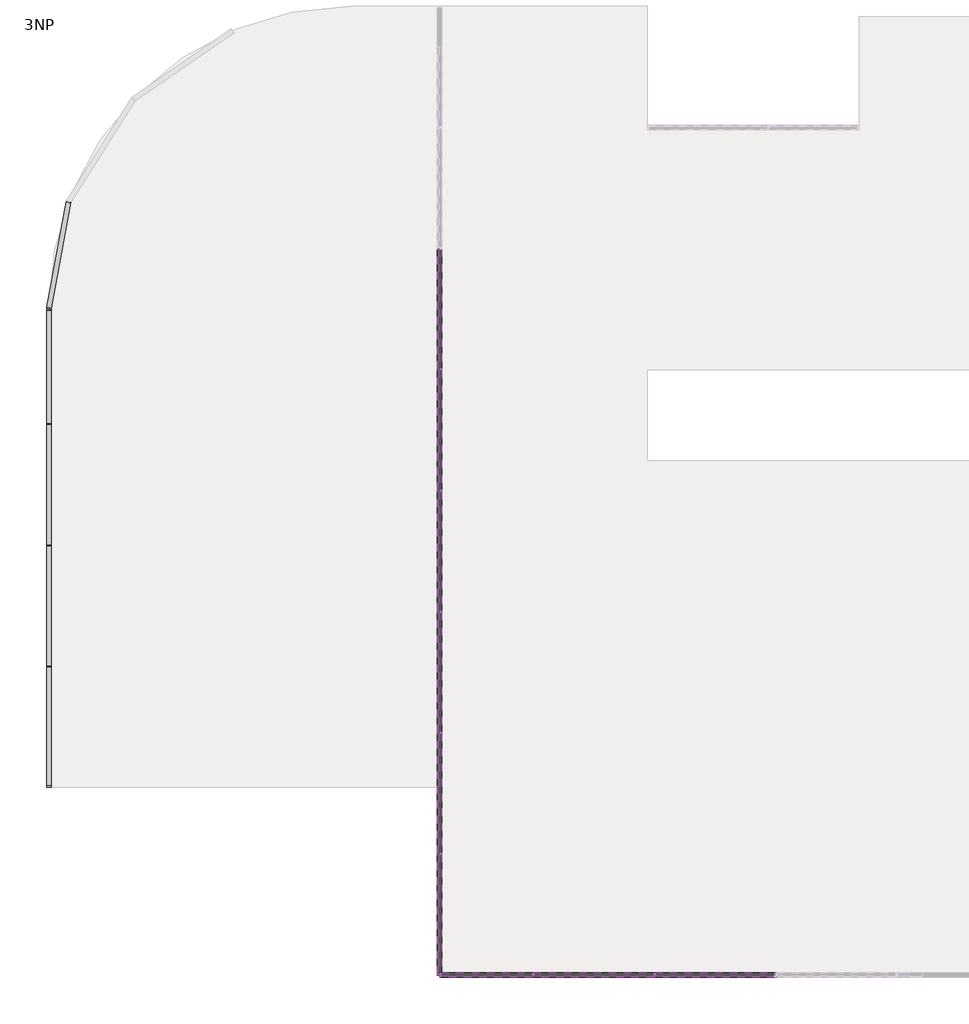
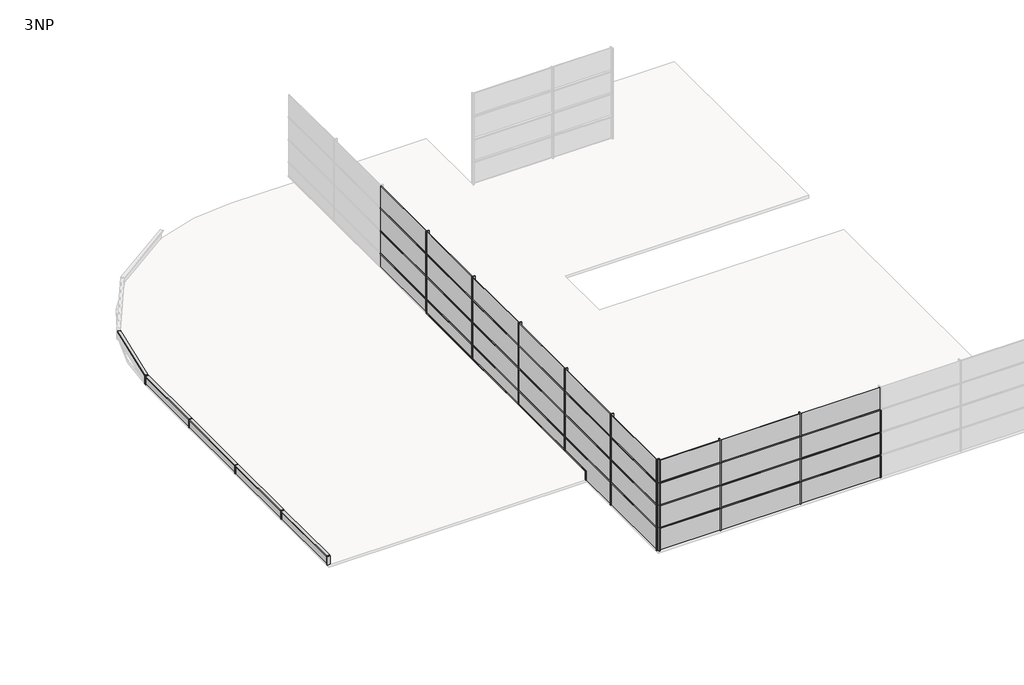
# One storey, part 1 of 3: 82 members, 40 plates.
"""IFC4 building model written with IfcOpenShell, lengths in millimetres."""

from ifc_helpers import new_model, si_unit, origin, place, context, project, spatial, transform, mapped, element, save
from components import rectangular_mullion_50_x_150mm_d99dc9be, rectangular_mullion_50_x_150mm_182bfbd5, rectangular_mullion_50_x_150mm_6588f46c, rectangular_mullion_50_x_150mm_a037c29c, rectangular_mullion_50_x_150mm_c2546fd4, rectangular_mullion_50_x_150mm_402ab136, rectangular_mullion_50_x_150mm_cd873b1a, rectangular_mullion_50_x_150mm_823f78f2, rectangular_mullion_50_x_150mm_af4f190b, rectangular_mullion_50_x_150mm_393abe4d, rectangular_mullion_50_x_150mm_6c212b22, rectangular_mullion_50_x_150mm_f682c31f, rectangular_mullion_50_x_150mm_a5a25251, rectangular_mullion_50_x_150mm_3d11f3b6, system_panel_glazed_8e9402eb, system_panel_glazed_89ac83a7, system_panel_glazed_2dc425e2, system_panel_glazed_457055d6, system_panel_glazed_6f3688e4, system_panel_glazed_d9b165dc, system_panel_glazed_d4f08671, system_panel_glazed_2e57b5d9

model = new_model("IFC4")

# Units and contexts
model_context = context("Model", 3, world=origin())
ifc_project = project(units=[si_unit("LENGTHUNIT", "METRE", prefix="MILLI")], contexts=[model_context])

# Site, building, storey
site = spatial("IfcSite", under=ifc_project)
building = spatial("IfcBuilding", under=site)
storey = spatial("IfcBuildingStorey", under=building, Name="3NP", Elevation=12000.0)

# Members
placement = place(None, origin())
rectangular_mullion_50_x_150mm_shape = rectangular_mullion_50_x_150mm_d99dc9be(model_context)
element("IfcMember", 1, ObjectType="Rectangular Mullion : 50 x 150mm", at=placement, inside=storey, context=model_context, shape_type="MappedRepresentation", body=[
    mapped(rectangular_mullion_50_x_150mm_shape, transform((5503.2660975, -23624.0160434, 13200.0), x_axis=(-1.0, 0.0, 0.0), y_axis=(0.0, -1.0, 0.0), z_axis=(0.0, 0.0, 1.0))),
])
element("IfcMember", 2, ObjectType="Rectangular Mullion : 50 x 150mm", at=placement, inside=storey, context=model_context, shape_type="MappedRepresentation", body=[
    mapped(rectangular_mullion_50_x_150mm_shape, transform((5503.2660975, -23624.0160434, 14400.0), x_axis=(-1.0, 0.0, 0.0), y_axis=(0.0, -1.0, 0.0), z_axis=(0.0, 0.0, 1.0))),
])
element("IfcMember", 3, ObjectType="Rectangular Mullion : 50 x 150mm", at=placement, inside=storey, context=model_context, shape_type="MappedRepresentation", body=[
    mapped(rectangular_mullion_50_x_150mm_shape, transform((5503.2660975, -23624.0160434, 15600.0), x_axis=(-1.0, 0.0, 0.0), y_axis=(0.0, -1.0, 0.0), z_axis=(0.0, 0.0, 1.0))),
])
element("IfcMember", 4, ObjectType="Rectangular Mullion : 50 x 150mm", at=placement, inside=storey, context=model_context, shape_type="MappedRepresentation", body=[
    mapped(rectangular_mullion_50_x_150mm_shape, transform((1503.2660975, -23624.0160434, 13200.0), x_axis=(-1.0, 0.0, 0.0), y_axis=(0.0, -1.0, 0.0), z_axis=(0.0, 0.0, 1.0))),
])
element("IfcMember", 5, ObjectType="Rectangular Mullion : 50 x 150mm", at=placement, inside=storey, context=model_context, shape_type="MappedRepresentation", body=[
    mapped(rectangular_mullion_50_x_150mm_shape, transform((1503.2660975, -23624.0160434, 14400.0), x_axis=(-1.0, 0.0, 0.0), y_axis=(0.0, -1.0, 0.0), z_axis=(0.0, 0.0, 1.0))),
])
element("IfcMember", 6, ObjectType="Rectangular Mullion : 50 x 150mm", at=placement, inside=storey, context=model_context, shape_type="MappedRepresentation", body=[
    mapped(rectangular_mullion_50_x_150mm_shape, transform((1503.2660975, -23624.0160434, 15600.0), x_axis=(-1.0, 0.0, 0.0), y_axis=(0.0, -1.0, 0.0), z_axis=(0.0, 0.0, 1.0))),
])
element("IfcMember", 7, ObjectType="Rectangular Mullion : 50 x 150mm", at=placement, inside=storey, context=model_context, shape_type="MappedRepresentation", body=[
    mapped(rectangular_mullion_50_x_150mm_shape, transform((1503.2660975, -23624.0160434, 16800.0), x_axis=(-1.0, 0.0, 0.0), y_axis=(0.0, -1.0, 0.0), z_axis=(0.0, 0.0, 1.0))),
])
element("IfcMember", 8, ObjectType="Rectangular Mullion : 50 x 150mm", at=placement, inside=storey, context=model_context, shape_type="MappedRepresentation", body=[
    mapped(rectangular_mullion_50_x_150mm_shape, transform((-2496.7339025, -23624.0160434, 13200.0), x_axis=(-1.0, 0.0, 0.0), y_axis=(0.0, -1.0, 0.0), z_axis=(0.0, 0.0, 1.0))),
])
element("IfcMember", 9, ObjectType="Rectangular Mullion : 50 x 150mm", at=placement, inside=storey, context=model_context, shape_type="MappedRepresentation", body=[
    mapped(rectangular_mullion_50_x_150mm_shape, transform((-2496.7339025, -23624.0160434, 14400.0), x_axis=(-1.0, 0.0, 0.0), y_axis=(0.0, -1.0, 0.0), z_axis=(0.0, 0.0, 1.0))),
])
element("IfcMember", 10, ObjectType="Rectangular Mullion : 50 x 150mm", at=placement, inside=storey, context=model_context, shape_type="MappedRepresentation", body=[
    mapped(rectangular_mullion_50_x_150mm_shape, transform((-2496.7339025, -23624.0160434, 15600.0), x_axis=(-1.0, 0.0, 0.0), y_axis=(0.0, -1.0, 0.0), z_axis=(0.0, 0.0, 1.0))),
])
element("IfcMember", 11, ObjectType="Rectangular Mullion : 50 x 150mm", at=placement, inside=storey, context=model_context, shape_type="MappedRepresentation", body=[
    mapped(rectangular_mullion_50_x_150mm_shape, transform((-2496.7339025, -23624.0160434, 16800.0), x_axis=(-1.0, 0.0, 0.0), y_axis=(0.0, -1.0, 0.0), z_axis=(0.0, 0.0, 1.0))),
])
element("IfcMember", 12, ObjectType="Rectangular Mullion : 50 x 150mm", at=placement, inside=storey, context=model_context, shape_type="MappedRepresentation", body=[
    mapped(rectangular_mullion_50_x_150mm_shape, transform((-5587.173406, -19624.0160434, 13200.0), x_axis=(0.0, 1.0, 0.0), y_axis=(-1.0, 0.0, 0.0), z_axis=(0.0, 0.0, 1.0))),
])
element("IfcMember", 13, ObjectType="Rectangular Mullion : 50 x 150mm", at=placement, inside=storey, context=model_context, shape_type="MappedRepresentation", body=[
    mapped(rectangular_mullion_50_x_150mm_shape, transform((-5587.173406, -19624.0160434, 14400.0), x_axis=(0.0, 1.0, 0.0), y_axis=(-1.0, 0.0, 0.0), z_axis=(0.0, 0.0, 1.0))),
])
element("IfcMember", 14, ObjectType="Rectangular Mullion : 50 x 150mm", at=placement, inside=storey, context=model_context, shape_type="MappedRepresentation", body=[
    mapped(rectangular_mullion_50_x_150mm_shape, transform((-5587.173406, -19624.0160434, 15600.0), x_axis=(0.0, 1.0, 0.0), y_axis=(-1.0, 0.0, 0.0), z_axis=(0.0, 0.0, 1.0))),
])
element("IfcMember", 15, ObjectType="Rectangular Mullion : 50 x 150mm", at=placement, inside=storey, context=model_context, shape_type="MappedRepresentation", body=[
    mapped(rectangular_mullion_50_x_150mm_shape, transform((-5587.173406, -19624.0160434, 16800.0), x_axis=(0.0, 1.0, 0.0), y_axis=(-1.0, 0.0, 0.0), z_axis=(0.0, 0.0, 1.0))),
])
element("IfcMember", 16, ObjectType="Rectangular Mullion : 50 x 150mm", at=placement, inside=storey, context=model_context, shape_type="MappedRepresentation", body=[
    mapped(rectangular_mullion_50_x_150mm_shape, transform((-5587.173406, -15624.0160434, 14400.0), x_axis=(0.0, 1.0, 0.0), y_axis=(-1.0, 0.0, 0.0), z_axis=(0.0, 0.0, 1.0))),
])
element("IfcMember", 17, ObjectType="Rectangular Mullion : 50 x 150mm", at=placement, inside=storey, context=model_context, shape_type="MappedRepresentation", body=[
    mapped(rectangular_mullion_50_x_150mm_shape, transform((-5587.173406, -15624.0160434, 15600.0), x_axis=(0.0, 1.0, 0.0), y_axis=(-1.0, 0.0, 0.0), z_axis=(0.0, 0.0, 1.0))),
])
element("IfcMember", 18, ObjectType="Rectangular Mullion : 50 x 150mm", at=placement, inside=storey, context=model_context, shape_type="MappedRepresentation", body=[
    mapped(rectangular_mullion_50_x_150mm_shape, transform((-5587.173406, -15624.0160434, 16800.0), x_axis=(0.0, 1.0, 0.0), y_axis=(-1.0, 0.0, 0.0), z_axis=(0.0, 0.0, 1.0))),
])
element("IfcMember", 19, ObjectType="Rectangular Mullion : 50 x 150mm", at=placement, inside=storey, context=model_context, shape_type="MappedRepresentation", body=[
    mapped(rectangular_mullion_50_x_150mm_shape, transform((-5587.173406, -11624.0160434, 14400.0), x_axis=(0.0, 1.0, 0.0), y_axis=(-1.0, 0.0, 0.0), z_axis=(0.0, 0.0, 1.0))),
])
element("IfcMember", 20, ObjectType="Rectangular Mullion : 50 x 150mm", at=placement, inside=storey, context=model_context, shape_type="MappedRepresentation", body=[
    mapped(rectangular_mullion_50_x_150mm_shape, transform((-5587.173406, -11624.0160434, 15600.0), x_axis=(0.0, 1.0, 0.0), y_axis=(-1.0, 0.0, 0.0), z_axis=(0.0, 0.0, 1.0))),
])
element("IfcMember", 21, ObjectType="Rectangular Mullion : 50 x 150mm", at=placement, inside=storey, context=model_context, shape_type="MappedRepresentation", body=[
    mapped(rectangular_mullion_50_x_150mm_shape, transform((-5587.173406, -11624.0160434, 16800.0), x_axis=(0.0, 1.0, 0.0), y_axis=(-1.0, 0.0, 0.0), z_axis=(0.0, 0.0, 1.0))),
])
element("IfcMember", 22, ObjectType="Rectangular Mullion : 50 x 150mm", at=placement, inside=storey, context=model_context, shape_type="MappedRepresentation", body=[
    mapped(rectangular_mullion_50_x_150mm_shape, transform((-5587.173406, -7624.0160434, 14400.0), x_axis=(0.0, 1.0, 0.0), y_axis=(-1.0, 0.0, 0.0), z_axis=(0.0, 0.0, 1.0))),
])
element("IfcMember", 23, ObjectType="Rectangular Mullion : 50 x 150mm", at=placement, inside=storey, context=model_context, shape_type="MappedRepresentation", body=[
    mapped(rectangular_mullion_50_x_150mm_shape, transform((-5587.173406, -7624.0160434, 15600.0), x_axis=(0.0, 1.0, 0.0), y_axis=(-1.0, 0.0, 0.0), z_axis=(0.0, 0.0, 1.0))),
])
element("IfcMember", 24, ObjectType="Rectangular Mullion : 50 x 150mm", at=placement, inside=storey, context=model_context, shape_type="MappedRepresentation", body=[
    mapped(rectangular_mullion_50_x_150mm_shape, transform((-5587.173406, -7624.0160434, 16800.0), x_axis=(0.0, 1.0, 0.0), y_axis=(-1.0, 0.0, 0.0), z_axis=(0.0, 0.0, 1.0))),
])
element("IfcMember", 25, ObjectType="Rectangular Mullion : 50 x 150mm", at=placement, inside=storey, context=model_context, shape_type="MappedRepresentation", body=[
    mapped(rectangular_mullion_50_x_150mm_shape, transform((-5587.173406, -3624.0160434, 14400.0), x_axis=(0.0, 1.0, 0.0), y_axis=(-1.0, 0.0, 0.0), z_axis=(0.0, 0.0, 1.0))),
])
element("IfcMember", 26, ObjectType="Rectangular Mullion : 50 x 150mm", at=placement, inside=storey, context=model_context, shape_type="MappedRepresentation", body=[
    mapped(rectangular_mullion_50_x_150mm_shape, transform((-5587.173406, -3624.0160434, 15600.0), x_axis=(0.0, 1.0, 0.0), y_axis=(-1.0, 0.0, 0.0), z_axis=(0.0, 0.0, 1.0))),
])
element("IfcMember", 27, ObjectType="Rectangular Mullion : 50 x 150mm", at=placement, inside=storey, context=model_context, shape_type="MappedRepresentation", body=[
    mapped(rectangular_mullion_50_x_150mm_shape, transform((-5587.173406, -3624.0160434, 16800.0), x_axis=(0.0, 1.0, 0.0), y_axis=(-1.0, 0.0, 0.0), z_axis=(0.0, 0.0, 1.0))),
])
rectangular_mullion_50_x_150mm_2_shape = rectangular_mullion_50_x_150mm_182bfbd5(model_context)
element("IfcMember", 28, ObjectType="Rectangular Mullion : 50 x 150mm", at=placement, inside=storey, context=model_context, shape_type="MappedRepresentation", body=[
    mapped(rectangular_mullion_50_x_150mm_2_shape, transform((-5587.173406, -11649.0160434, 12448.4924443), x_axis=(0.0, 0.0, -1.0), y_axis=(-1.0, 0.0, 0.0), z_axis=(0.0, 1.0, 0.0))),
])
element("IfcMember", 29, ObjectType="Rectangular Mullion : 50 x 150mm", at=placement, inside=storey, context=model_context, shape_type="MappedRepresentation", body=[
    mapped(rectangular_mullion_50_x_150mm_2_shape, transform((-5587.173406, -7649.0160434, 12448.4924443), x_axis=(0.0, 0.0, -1.0), y_axis=(-1.0, 0.0, 0.0), z_axis=(0.0, 1.0, 0.0))),
])
element("IfcMember", 30, ObjectType="Rectangular Mullion : 50 x 150mm", at=placement, inside=storey, context=model_context, shape_type="MappedRepresentation", body=[
    mapped(rectangular_mullion_50_x_150mm_2_shape, transform((-5587.173406, -3649.0160434, 12448.4924443), x_axis=(0.0, 0.0, -1.0), y_axis=(-1.0, 0.0, 0.0), z_axis=(0.0, 1.0, 0.0))),
])
rectangular_mullion_50_x_150mm_3_shape = rectangular_mullion_50_x_150mm_6588f46c(model_context)
element("IfcMember", 31, ObjectType="Rectangular Mullion : 50 x 150mm", at=placement, inside=storey, context=model_context, shape_type="MappedRepresentation", body=[
    mapped(rectangular_mullion_50_x_150mm_3_shape, transform((-5587.173406, -23624.0160434, 13200.0), x_axis=(-1.0, 0.0, 0.0), y_axis=(0.0, -1.0, 0.0), z_axis=(0.0, 0.0, 1.0))),
])
element("IfcMember", 32, ObjectType="Rectangular Mullion : 50 x 150mm", at=placement, inside=storey, context=model_context, shape_type="MappedRepresentation", body=[
    mapped(rectangular_mullion_50_x_150mm_3_shape, transform((-5587.173406, -23624.0160434, 14400.0), x_axis=(-1.0, 0.0, 0.0), y_axis=(0.0, -1.0, 0.0), z_axis=(0.0, 0.0, 1.0))),
])
element("IfcMember", 33, ObjectType="Rectangular Mullion : 50 x 150mm", at=placement, inside=storey, context=model_context, shape_type="MappedRepresentation", body=[
    mapped(rectangular_mullion_50_x_150mm_3_shape, transform((-5587.173406, -23624.0160434, 15600.0), x_axis=(-1.0, 0.0, 0.0), y_axis=(0.0, -1.0, 0.0), z_axis=(0.0, 0.0, 1.0))),
])
element("IfcMember", 34, ObjectType="Rectangular Mullion : 50 x 150mm", at=placement, inside=storey, context=model_context, shape_type="MappedRepresentation", body=[
    mapped(rectangular_mullion_50_x_150mm_3_shape, transform((-5587.173406, -23624.0160434, 16800.0), x_axis=(-1.0, 0.0, 0.0), y_axis=(0.0, -1.0, 0.0), z_axis=(0.0, 0.0, 1.0))),
])
element("IfcMember", 35, ObjectType="Rectangular Mullion : 50 x 150mm", at=placement, inside=storey, context=model_context, shape_type="MappedRepresentation", body=[
    mapped(rectangular_mullion_50_x_150mm_2_shape, transform((-18496.7339025, -9398.5291324, 12448.4924443), x_axis=(0.0, 0.0, 1.0), y_axis=(-1.0, 0.0, 0.0), z_axis=(0.0, -1.0, 0.0))),
])
element("IfcMember", 36, ObjectType="Rectangular Mullion : 50 x 150mm", at=placement, inside=storey, context=model_context, shape_type="MappedRepresentation", body=[
    mapped(rectangular_mullion_50_x_150mm_2_shape, transform((-18496.7339025, -13398.5291324, 12448.4924443), x_axis=(0.0, 0.0, 1.0), y_axis=(-1.0, 0.0, 0.0), z_axis=(0.0, -1.0, 0.0))),
])
rectangular_mullion_50_x_150mm_4_shape = rectangular_mullion_50_x_150mm_a037c29c(model_context)
element("IfcMember", 37, ObjectType="Rectangular Mullion : 50 x 150mm", at=placement, inside=storey, context=model_context, shape_type="MappedRepresentation", body=[
    mapped(rectangular_mullion_50_x_150mm_4_shape, transform((5478.2660975, -23624.0160434, 13200.0), x_axis=(0.0, 0.0, 1.0), y_axis=(0.0, -1.0, 0.0), z_axis=(1.0, 0.0, 0.0))),
])
element("IfcMember", 38, ObjectType="Rectangular Mullion : 50 x 150mm", at=placement, inside=storey, context=model_context, shape_type="MappedRepresentation", body=[
    mapped(rectangular_mullion_50_x_150mm_4_shape, transform((1478.2660975, -23624.0160434, 13200.0), x_axis=(0.0, 0.0, 1.0), y_axis=(0.0, -1.0, 0.0), z_axis=(1.0, 0.0, 0.0))),
])
element("IfcMember", 39, ObjectType="Rectangular Mullion : 50 x 150mm", at=placement, inside=storey, context=model_context, shape_type="MappedRepresentation", body=[
    mapped(rectangular_mullion_50_x_150mm_4_shape, transform((5478.2660975, -23624.0160434, 14400.0), x_axis=(0.0, 0.0, 1.0), y_axis=(0.0, -1.0, 0.0), z_axis=(1.0, 0.0, 0.0))),
])
element("IfcMember", 40, ObjectType="Rectangular Mullion : 50 x 150mm", at=placement, inside=storey, context=model_context, shape_type="MappedRepresentation", body=[
    mapped(rectangular_mullion_50_x_150mm_4_shape, transform((1478.2660975, -23624.0160434, 14400.0), x_axis=(0.0, 0.0, 1.0), y_axis=(0.0, -1.0, 0.0), z_axis=(1.0, 0.0, 0.0))),
])
element("IfcMember", 41, ObjectType="Rectangular Mullion : 50 x 150mm", at=placement, inside=storey, context=model_context, shape_type="MappedRepresentation", body=[
    mapped(rectangular_mullion_50_x_150mm_4_shape, transform((5478.2660975, -23624.0160434, 15600.0), x_axis=(0.0, 0.0, 1.0), y_axis=(0.0, -1.0, 0.0), z_axis=(1.0, 0.0, 0.0))),
])
element("IfcMember", 42, ObjectType="Rectangular Mullion : 50 x 150mm", at=placement, inside=storey, context=model_context, shape_type="MappedRepresentation", body=[
    mapped(rectangular_mullion_50_x_150mm_4_shape, transform((1478.2660975, -23624.0160434, 15600.0), x_axis=(0.0, 0.0, 1.0), y_axis=(0.0, -1.0, 0.0), z_axis=(1.0, 0.0, 0.0))),
])
element("IfcMember", 43, ObjectType="Rectangular Mullion : 50 x 150mm", at=placement, inside=storey, context=model_context, shape_type="MappedRepresentation", body=[
    mapped(rectangular_mullion_50_x_150mm_4_shape, transform((-5587.173406, -7599.0160434, 15600.0), x_axis=(0.0, 0.0, 1.0), y_axis=(-1.0, 0.0, 0.0), z_axis=(0.0, -1.0, 0.0))),
])
element("IfcMember", 44, ObjectType="Rectangular Mullion : 50 x 150mm", at=placement, inside=storey, context=model_context, shape_type="MappedRepresentation", body=[
    mapped(rectangular_mullion_50_x_150mm_4_shape, transform((-5587.173406, -3599.0160434, 15600.0), x_axis=(0.0, 0.0, 1.0), y_axis=(-1.0, 0.0, 0.0), z_axis=(0.0, -1.0, 0.0))),
])
element("IfcMember", 45, ObjectType="Rectangular Mullion : 50 x 150mm", at=placement, inside=storey, context=model_context, shape_type="MappedRepresentation", body=[
    mapped(rectangular_mullion_50_x_150mm_4_shape, transform((-5587.173406, -15599.0160434, 14400.0), x_axis=(0.0, 0.0, 1.0), y_axis=(-1.0, 0.0, 0.0), z_axis=(0.0, -1.0, 0.0))),
])
element("IfcMember", 46, ObjectType="Rectangular Mullion : 50 x 150mm", at=placement, inside=storey, context=model_context, shape_type="MappedRepresentation", body=[
    mapped(rectangular_mullion_50_x_150mm_4_shape, transform((-5587.173406, -11599.0160434, 14400.0), x_axis=(0.0, 0.0, 1.0), y_axis=(-1.0, 0.0, 0.0), z_axis=(0.0, -1.0, 0.0))),
])
element("IfcMember", 47, ObjectType="Rectangular Mullion : 50 x 150mm", at=placement, inside=storey, context=model_context, shape_type="MappedRepresentation", body=[
    mapped(rectangular_mullion_50_x_150mm_4_shape, transform((-5587.173406, -7599.0160434, 14400.0), x_axis=(0.0, 0.0, 1.0), y_axis=(-1.0, 0.0, 0.0), z_axis=(0.0, -1.0, 0.0))),
])
element("IfcMember", 48, ObjectType="Rectangular Mullion : 50 x 150mm", at=placement, inside=storey, context=model_context, shape_type="MappedRepresentation", body=[
    mapped(rectangular_mullion_50_x_150mm_4_shape, transform((-5587.173406, -3599.0160434, 14400.0), x_axis=(0.0, 0.0, 1.0), y_axis=(-1.0, 0.0, 0.0), z_axis=(0.0, -1.0, 0.0))),
])
element("IfcMember", 49, ObjectType="Rectangular Mullion : 50 x 150mm", at=placement, inside=storey, context=model_context, shape_type="MappedRepresentation", body=[
    mapped(rectangular_mullion_50_x_150mm_4_shape, transform((-5587.173406, -19599.0160434, 15600.0), x_axis=(0.0, 0.0, 1.0), y_axis=(-1.0, 0.0, 0.0), z_axis=(0.0, -1.0, 0.0))),
])
element("IfcMember", 50, ObjectType="Rectangular Mullion : 50 x 150mm", at=placement, inside=storey, context=model_context, shape_type="MappedRepresentation", body=[
    mapped(rectangular_mullion_50_x_150mm_4_shape, transform((-5587.173406, -15599.0160434, 15600.0), x_axis=(0.0, 0.0, 1.0), y_axis=(-1.0, 0.0, 0.0), z_axis=(0.0, -1.0, 0.0))),
])
element("IfcMember", 51, ObjectType="Rectangular Mullion : 50 x 150mm", at=placement, inside=storey, context=model_context, shape_type="MappedRepresentation", body=[
    mapped(rectangular_mullion_50_x_150mm_4_shape, transform((-5587.173406, -11599.0160434, 15600.0), x_axis=(0.0, 0.0, 1.0), y_axis=(-1.0, 0.0, 0.0), z_axis=(0.0, -1.0, 0.0))),
])
element("IfcMember", 52, ObjectType="Rectangular Mullion : 50 x 150mm", at=placement, inside=storey, context=model_context, shape_type="MappedRepresentation", body=[
    mapped(rectangular_mullion_50_x_150mm_4_shape, transform((-5587.173406, -19599.0160434, 13200.0), x_axis=(0.0, 0.0, 1.0), y_axis=(-1.0, 0.0, 0.0), z_axis=(0.0, -1.0, 0.0))),
])
element("IfcMember", 53, ObjectType="Rectangular Mullion : 50 x 150mm", at=placement, inside=storey, context=model_context, shape_type="MappedRepresentation", body=[
    mapped(rectangular_mullion_50_x_150mm_4_shape, transform((-5587.173406, -15599.0160434, 13200.0), x_axis=(0.0, 0.0, 1.0), y_axis=(-1.0, 0.0, 0.0), z_axis=(0.0, -1.0, 0.0))),
])
element("IfcMember", 54, ObjectType="Rectangular Mullion : 50 x 150mm", at=placement, inside=storey, context=model_context, shape_type="MappedRepresentation", body=[
    mapped(rectangular_mullion_50_x_150mm_4_shape, transform((-5587.173406, -11599.0160434, 13200.0), x_axis=(0.0, 0.0, 1.0), y_axis=(-1.0, 0.0, 0.0), z_axis=(0.0, -1.0, 0.0))),
])
element("IfcMember", 55, ObjectType="Rectangular Mullion : 50 x 150mm", at=placement, inside=storey, context=model_context, shape_type="MappedRepresentation", body=[
    mapped(rectangular_mullion_50_x_150mm_4_shape, transform((-5587.173406, -7599.0160434, 13200.0), x_axis=(0.0, 0.0, 1.0), y_axis=(-1.0, 0.0, 0.0), z_axis=(0.0, -1.0, 0.0))),
])
element("IfcMember", 56, ObjectType="Rectangular Mullion : 50 x 150mm", at=placement, inside=storey, context=model_context, shape_type="MappedRepresentation", body=[
    mapped(rectangular_mullion_50_x_150mm_4_shape, transform((-5587.173406, -3599.0160434, 13200.0), x_axis=(0.0, 0.0, 1.0), y_axis=(-1.0, 0.0, 0.0), z_axis=(0.0, -1.0, 0.0))),
])
element("IfcMember", 57, ObjectType="Rectangular Mullion : 50 x 150mm", at=placement, inside=storey, context=model_context, shape_type="MappedRepresentation", body=[
    mapped(rectangular_mullion_50_x_150mm_4_shape, transform((-5587.173406, -19599.0160434, 14400.0), x_axis=(0.0, 0.0, 1.0), y_axis=(-1.0, 0.0, 0.0), z_axis=(0.0, -1.0, 0.0))),
])
rectangular_mullion_50_x_150mm_5_shape = rectangular_mullion_50_x_150mm_c2546fd4(model_context)
element("IfcMember", 58, ObjectType="Rectangular Mullion : 50 x 150mm", at=placement, inside=storey, context=model_context, shape_type="MappedRepresentation", body=[
    mapped(rectangular_mullion_50_x_150mm_5_shape, transform((-5587.173406, -23574.0160434, 15600.0), x_axis=(0.0, 0.0, 1.0), y_axis=(-1.0, 0.0, 0.0), z_axis=(0.0, -1.0, 0.0))),
])
element("IfcMember", 59, ObjectType="Rectangular Mullion : 50 x 150mm", at=placement, inside=storey, context=model_context, shape_type="MappedRepresentation", body=[
    mapped(rectangular_mullion_50_x_150mm_5_shape, transform((-5587.173406, -23574.0160434, 13200.0), x_axis=(0.0, 0.0, 1.0), y_axis=(-1.0, 0.0, 0.0), z_axis=(0.0, -1.0, 0.0))),
])
element("IfcMember", 60, ObjectType="Rectangular Mullion : 50 x 150mm", at=placement, inside=storey, context=model_context, shape_type="MappedRepresentation", body=[
    mapped(rectangular_mullion_50_x_150mm_5_shape, transform((-5587.173406, -23574.0160434, 14400.0), x_axis=(0.0, 0.0, 1.0), y_axis=(-1.0, 0.0, 0.0), z_axis=(0.0, -1.0, 0.0))),
])
rectangular_mullion_50_x_150mm_6_shape = rectangular_mullion_50_x_150mm_402ab136(model_context)
element("IfcMember", 61, ObjectType="Rectangular Mullion : 50 x 150mm", at=placement, inside=storey, context=model_context, shape_type="MappedRepresentation", body=[
    mapped(rectangular_mullion_50_x_150mm_6_shape, transform((-18496.7339025, -17373.5291324, 12448.4924443), x_axis=(0.0, 0.0, 1.0), y_axis=(-1.0, 0.0, 0.0), z_axis=(0.0, -1.0, 0.0))),
])
element("IfcMember", 62, ObjectType="Rectangular Mullion : 50 x 150mm", at=placement, inside=storey, context=model_context, shape_type="MappedRepresentation", body=[
    mapped(rectangular_mullion_50_x_150mm_3_shape, transform((-5587.173406, -23624.0160434, 12000.0), x_axis=(0.0, -1.0, 0.0), y_axis=(-1.0, 0.0, 0.0), z_axis=(0.0, 0.0, -1.0))),
])
element("IfcMember", 63, ObjectType="Rectangular Mullion : 50 x 150mm", at=placement, inside=storey, context=model_context, shape_type="MappedRepresentation", body=[
    mapped(rectangular_mullion_50_x_150mm_3_shape, transform((-5587.173406, -23624.0160434, 13200.0), x_axis=(0.0, -1.0, 0.0), y_axis=(-1.0, 0.0, 0.0), z_axis=(0.0, 0.0, -1.0))),
])
element("IfcMember", 64, ObjectType="Rectangular Mullion : 50 x 150mm", at=placement, inside=storey, context=model_context, shape_type="MappedRepresentation", body=[
    mapped(rectangular_mullion_50_x_150mm_3_shape, transform((-5587.173406, -23624.0160434, 14400.0), x_axis=(0.0, -1.0, 0.0), y_axis=(-1.0, 0.0, 0.0), z_axis=(0.0, 0.0, -1.0))),
])
element("IfcMember", 65, ObjectType="Rectangular Mullion : 50 x 150mm", at=placement, inside=storey, context=model_context, shape_type="MappedRepresentation", body=[
    mapped(rectangular_mullion_50_x_150mm_3_shape, transform((-5587.173406, -23624.0160434, 15600.0), x_axis=(0.0, -1.0, 0.0), y_axis=(-1.0, 0.0, 0.0), z_axis=(0.0, 0.0, -1.0))),
])
rectangular_mullion_50_x_150mm_7_shape = rectangular_mullion_50_x_150mm_cd873b1a(model_context)
element("IfcMember", 66, ObjectType="Rectangular Mullion : 50 x 150mm", at=placement, inside=storey, context=model_context, shape_type="MappedRepresentation", body=[
    mapped(rectangular_mullion_50_x_150mm_7_shape, transform((-2521.7339025, -23624.0160434, 13200.0), x_axis=(0.0, 0.0, 1.0), y_axis=(0.0, -1.0, 0.0), z_axis=(1.0, 0.0, 0.0))),
])
element("IfcMember", 67, ObjectType="Rectangular Mullion : 50 x 150mm", at=placement, inside=storey, context=model_context, shape_type="MappedRepresentation", body=[
    mapped(rectangular_mullion_50_x_150mm_7_shape, transform((-2521.7339025, -23624.0160434, 14400.0), x_axis=(0.0, 0.0, 1.0), y_axis=(0.0, -1.0, 0.0), z_axis=(1.0, 0.0, 0.0))),
])
element("IfcMember", 68, ObjectType="Rectangular Mullion : 50 x 150mm", at=placement, inside=storey, context=model_context, shape_type="MappedRepresentation", body=[
    mapped(rectangular_mullion_50_x_150mm_7_shape, transform((-2521.7339025, -23624.0160434, 15600.0), x_axis=(0.0, 0.0, 1.0), y_axis=(0.0, -1.0, 0.0), z_axis=(1.0, 0.0, 0.0))),
])
rectangular_mullion_50_x_150mm_8_shape = rectangular_mullion_50_x_150mm_823f78f2(model_context)
element("IfcMember", 69, ObjectType="Rectangular Mullion : 50 x 150mm", at=placement, inside=storey, context=model_context, shape_type="MappedRepresentation", body=[
    mapped(rectangular_mullion_50_x_150mm_8_shape, transform((-5587.173406, -15624.0160434, 13200.0), x_axis=(0.0, 1.0, 0.0), y_axis=(-1.0, 0.0, 0.0), z_axis=(0.0, 0.0, 1.0))),
])
element("IfcMember", 70, ObjectType="Rectangular Mullion : 50 x 150mm", at=placement, inside=storey, context=model_context, shape_type="MappedRepresentation", body=[
    mapped(rectangular_mullion_50_x_150mm_8_shape, transform((-5587.173406, -11624.0160434, 13200.0), x_axis=(0.0, 1.0, 0.0), y_axis=(-1.0, 0.0, 0.0), z_axis=(0.0, 0.0, 1.0))),
])
element("IfcMember", 71, ObjectType="Rectangular Mullion : 50 x 150mm", at=placement, inside=storey, context=model_context, shape_type="MappedRepresentation", body=[
    mapped(rectangular_mullion_50_x_150mm_8_shape, transform((-5587.173406, -7624.0160434, 13200.0), x_axis=(0.0, 1.0, 0.0), y_axis=(-1.0, 0.0, 0.0), z_axis=(0.0, 0.0, 1.0))),
])
element("IfcMember", 72, ObjectType="Rectangular Mullion : 50 x 150mm", at=placement, inside=storey, context=model_context, shape_type="MappedRepresentation", body=[
    mapped(rectangular_mullion_50_x_150mm_8_shape, transform((-5587.173406, -3624.0160434, 13200.0), x_axis=(0.0, 1.0, 0.0), y_axis=(-1.0, 0.0, 0.0), z_axis=(0.0, 0.0, 1.0))),
])
rectangular_mullion_50_x_150mm_9_shape = rectangular_mullion_50_x_150mm_af4f190b(model_context)
element("IfcMember", 73, ObjectType="Rectangular Mullion : 50 x 150mm", at=placement, inside=storey, context=model_context, shape_type="MappedRepresentation", body=[
    mapped(rectangular_mullion_50_x_150mm_9_shape, transform((-5587.173406, -17423.5291324, 12498.4924443), x_axis=(0.0, 1.0, 0.0), y_axis=(-1.0, 0.0, 0.0), z_axis=(0.0, 0.0, 1.0))),
])
rectangular_mullion_50_x_150mm_10_shape = rectangular_mullion_50_x_150mm_393abe4d(model_context)
element("IfcMember", 74, ObjectType="Rectangular Mullion : 50 x 150mm", at=placement, inside=storey, context=model_context, shape_type="MappedRepresentation", body=[
    mapped(rectangular_mullion_50_x_150mm_10_shape, transform((-5587.173406, -15649.0160434, 12448.4924443), x_axis=(0.0, 0.0, -1.0), y_axis=(-1.0, 0.0, 0.0), z_axis=(0.0, 1.0, 0.0))),
])
rectangular_mullion_50_x_150mm_11_shape = rectangular_mullion_50_x_150mm_6c212b22(model_context)
element("IfcMember", 75, ObjectType="Rectangular Mullion : 50 x 150mm", at=placement, inside=storey, context=model_context, shape_type="MappedRepresentation", body=[
    mapped(rectangular_mullion_50_x_150mm_11_shape, transform((-18496.7339025, -1624.0160434, 12448.4924443), x_axis=(0.0, 1.0, 0.0), y_axis=(-1.0, 0.0, 0.0), z_axis=(0.0, 0.0, 1.0))),
])
element("IfcMember", 76, ObjectType="Rectangular Mullion : 50 x 150mm", at=placement, inside=storey, context=model_context, shape_type="MappedRepresentation", body=[
    mapped(rectangular_mullion_50_x_150mm_11_shape, transform((-18496.7339025, -1624.0160434, 12000.0), x_axis=(-0.18033241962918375, -0.9836057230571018, 0.0), y_axis=(-0.9836057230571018, 0.18033241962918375, 0.0), z_axis=(0.0, 0.0, -1.0))),
])
element("IfcMember", 77, ObjectType="Rectangular Mullion : 50 x 150mm", at=placement, inside=storey, context=model_context, shape_type="MappedRepresentation", body=[
    mapped(rectangular_mullion_50_x_150mm_11_shape, transform((-18496.7339025, -17423.5291324, 12000.0), x_axis=(0.0, -1.0, 0.0), y_axis=(-1.0, 0.0, 0.0), z_axis=(0.0, 0.0, -1.0))),
])
rectangular_mullion_50_x_150mm_12_shape = rectangular_mullion_50_x_150mm_f682c31f(model_context)
element("IfcMember", 78, ObjectType="Rectangular Mullion : 50 x 150mm", at=placement, inside=storey, context=model_context, shape_type="MappedRepresentation", body=[
    mapped(rectangular_mullion_50_x_150mm_12_shape, transform((-18487.7172815, -1574.8357573, 12448.4924443), x_axis=(0.0, 0.0, 1.0), y_axis=(-0.9836057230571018, 0.18033241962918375, 0.0), z_axis=(-0.18033241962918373, -0.9836057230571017, 0.0))),
])
rectangular_mullion_50_x_150mm_13_shape = rectangular_mullion_50_x_150mm_a5a25251(model_context)
element("IfcMember", 79, ObjectType="Rectangular Mullion : 50 x 150mm", at=placement, inside=storey, context=model_context, shape_type="MappedRepresentation", body=[
    mapped(rectangular_mullion_50_x_150mm_13_shape, transform((-18496.7339025, -5398.5291324, 12448.4924443), x_axis=(0.0, 0.0, 1.0), y_axis=(-1.0, 0.0, 0.0), z_axis=(0.0, -1.0, 0.0))),
])
rectangular_mullion_50_x_150mm_14_shape = rectangular_mullion_50_x_150mm_3d11f3b6(model_context)
element("IfcMember", 80, ObjectType="Rectangular Mullion : 50 x 150mm", at=placement, inside=storey, context=model_context, shape_type="MappedRepresentation", body=[
    mapped(rectangular_mullion_50_x_150mm_14_shape, transform((-18496.7339025, -13423.5291324, 12448.4924443), x_axis=(0.0, 1.0, 0.0), y_axis=(-1.0, 0.0, 0.0), z_axis=(0.0, 0.0, 1.0))),
])
element("IfcMember", 81, ObjectType="Rectangular Mullion : 50 x 150mm", at=placement, inside=storey, context=model_context, shape_type="MappedRepresentation", body=[
    mapped(rectangular_mullion_50_x_150mm_14_shape, transform((-18496.7339025, -9423.5291324, 12448.4924443), x_axis=(0.0, 1.0, 0.0), y_axis=(-1.0, 0.0, 0.0), z_axis=(0.0, 0.0, 1.0))),
])
element("IfcMember", 82, ObjectType="Rectangular Mullion : 50 x 150mm", at=placement, inside=storey, context=model_context, shape_type="MappedRepresentation", body=[
    mapped(rectangular_mullion_50_x_150mm_14_shape, transform((-18496.7339025, -5423.5291324, 12448.4924443), x_axis=(0.0, 1.0, 0.0), y_axis=(-1.0, 0.0, 0.0), z_axis=(0.0, 0.0, 1.0))),
])

# Plates
system_panel_glazed_shape = system_panel_glazed_8e9402eb(model_context)
element("IfcPlate", 83, ObjectType="System Panel : Glazed", at=placement, inside=storey, context=model_context, shape_type="MappedRepresentation", body=[
    mapped(system_panel_glazed_shape, transform((-5587.173406, -21611.5160434, 12025.0), x_axis=(0.0, 1.0, 0.0), y_axis=(-1.0, 0.0, 0.0), z_axis=(0.0, 0.0, 1.0))),
])
element("IfcPlate", 84, ObjectType="System Panel : Glazed", at=placement, inside=storey, context=model_context, shape_type="MappedRepresentation", body=[
    mapped(system_panel_glazed_shape, transform((-5587.173406, -21611.5160434, 13225.0), x_axis=(0.0, 1.0, 0.0), y_axis=(-1.0, 0.0, 0.0), z_axis=(0.0, 0.0, 1.0))),
])
element("IfcPlate", 85, ObjectType="System Panel : Glazed", at=placement, inside=storey, context=model_context, shape_type="MappedRepresentation", body=[
    mapped(system_panel_glazed_shape, transform((-5587.173406, -21611.5160434, 14425.0), x_axis=(0.0, 1.0, 0.0), y_axis=(-1.0, 0.0, 0.0), z_axis=(0.0, 0.0, 1.0))),
])
element("IfcPlate", 86, ObjectType="System Panel : Glazed", at=placement, inside=storey, context=model_context, shape_type="MappedRepresentation", body=[
    mapped(system_panel_glazed_shape, transform((-5587.173406, -21611.5160434, 15625.0), x_axis=(0.0, 1.0, 0.0), y_axis=(-1.0, 0.0, 0.0), z_axis=(0.0, 0.0, 1.0))),
])
system_panel_glazed_2_shape = system_panel_glazed_89ac83a7(model_context)
element("IfcPlate", 87, ObjectType="System Panel : Glazed", at=placement, inside=storey, context=model_context, shape_type="MappedRepresentation", body=[
    mapped(system_panel_glazed_2_shape, transform((-5587.173406, -17624.0160434, 13225.0), x_axis=(0.0, 1.0, 0.0), y_axis=(-1.0, 0.0, 0.0), z_axis=(0.0, 0.0, 1.0))),
])
element("IfcPlate", 88, ObjectType="System Panel : Glazed", at=placement, inside=storey, context=model_context, shape_type="MappedRepresentation", body=[
    mapped(system_panel_glazed_2_shape, transform((-5587.173406, -13624.0160434, 13225.0), x_axis=(0.0, 1.0, 0.0), y_axis=(-1.0, 0.0, 0.0), z_axis=(0.0, 0.0, 1.0))),
])
element("IfcPlate", 89, ObjectType="System Panel : Glazed", at=placement, inside=storey, context=model_context, shape_type="MappedRepresentation", body=[
    mapped(system_panel_glazed_2_shape, transform((-5587.173406, -9624.0160434, 13225.0), x_axis=(0.0, 1.0, 0.0), y_axis=(-1.0, 0.0, 0.0), z_axis=(0.0, 0.0, 1.0))),
])
element("IfcPlate", 90, ObjectType="System Panel : Glazed", at=placement, inside=storey, context=model_context, shape_type="MappedRepresentation", body=[
    mapped(system_panel_glazed_2_shape, transform((-5587.173406, -5624.0160434, 13225.0), x_axis=(0.0, 1.0, 0.0), y_axis=(-1.0, 0.0, 0.0), z_axis=(0.0, 0.0, 1.0))),
])
element("IfcPlate", 91, ObjectType="System Panel : Glazed", at=placement, inside=storey, context=model_context, shape_type="MappedRepresentation", body=[
    mapped(system_panel_glazed_2_shape, transform((-5587.173406, -1624.0160434, 13225.0), x_axis=(0.0, 1.0, 0.0), y_axis=(-1.0, 0.0, 0.0), z_axis=(0.0, 0.0, 1.0))),
])
element("IfcPlate", 92, ObjectType="System Panel : Glazed", at=placement, inside=storey, context=model_context, shape_type="MappedRepresentation", body=[
    mapped(system_panel_glazed_2_shape, transform((-5587.173406, -17624.0160434, 14425.0), x_axis=(0.0, 1.0, 0.0), y_axis=(-1.0, 0.0, 0.0), z_axis=(0.0, 0.0, 1.0))),
])
element("IfcPlate", 93, ObjectType="System Panel : Glazed", at=placement, inside=storey, context=model_context, shape_type="MappedRepresentation", body=[
    mapped(system_panel_glazed_2_shape, transform((-5587.173406, -13624.0160434, 14425.0), x_axis=(0.0, 1.0, 0.0), y_axis=(-1.0, 0.0, 0.0), z_axis=(0.0, 0.0, 1.0))),
])
element("IfcPlate", 94, ObjectType="System Panel : Glazed", at=placement, inside=storey, context=model_context, shape_type="MappedRepresentation", body=[
    mapped(system_panel_glazed_2_shape, transform((-5587.173406, -9624.0160434, 14425.0), x_axis=(0.0, 1.0, 0.0), y_axis=(-1.0, 0.0, 0.0), z_axis=(0.0, 0.0, 1.0))),
])
element("IfcPlate", 95, ObjectType="System Panel : Glazed", at=placement, inside=storey, context=model_context, shape_type="MappedRepresentation", body=[
    mapped(system_panel_glazed_2_shape, transform((-5587.173406, -5624.0160434, 14425.0), x_axis=(0.0, 1.0, 0.0), y_axis=(-1.0, 0.0, 0.0), z_axis=(0.0, 0.0, 1.0))),
])
element("IfcPlate", 96, ObjectType="System Panel : Glazed", at=placement, inside=storey, context=model_context, shape_type="MappedRepresentation", body=[
    mapped(system_panel_glazed_2_shape, transform((-5587.173406, -1624.0160434, 14425.0), x_axis=(0.0, 1.0, 0.0), y_axis=(-1.0, 0.0, 0.0), z_axis=(0.0, 0.0, 1.0))),
])
element("IfcPlate", 97, ObjectType="System Panel : Glazed", at=placement, inside=storey, context=model_context, shape_type="MappedRepresentation", body=[
    mapped(system_panel_glazed_2_shape, transform((-5587.173406, -17624.0160434, 15625.0), x_axis=(0.0, 1.0, 0.0), y_axis=(-1.0, 0.0, 0.0), z_axis=(0.0, 0.0, 1.0))),
])
element("IfcPlate", 98, ObjectType="System Panel : Glazed", at=placement, inside=storey, context=model_context, shape_type="MappedRepresentation", body=[
    mapped(system_panel_glazed_2_shape, transform((-5587.173406, -13624.0160434, 15625.0), x_axis=(0.0, 1.0, 0.0), y_axis=(-1.0, 0.0, 0.0), z_axis=(0.0, 0.0, 1.0))),
])
element("IfcPlate", 99, ObjectType="System Panel : Glazed", at=placement, inside=storey, context=model_context, shape_type="MappedRepresentation", body=[
    mapped(system_panel_glazed_2_shape, transform((-5587.173406, -9624.0160434, 15625.0), x_axis=(0.0, 1.0, 0.0), y_axis=(-1.0, 0.0, 0.0), z_axis=(0.0, 0.0, 1.0))),
])
element("IfcPlate", 100, ObjectType="System Panel : Glazed", at=placement, inside=storey, context=model_context, shape_type="MappedRepresentation", body=[
    mapped(system_panel_glazed_2_shape, transform((-5587.173406, -5624.0160434, 15625.0), x_axis=(0.0, 1.0, 0.0), y_axis=(-1.0, 0.0, 0.0), z_axis=(0.0, 0.0, 1.0))),
])
element("IfcPlate", 101, ObjectType="System Panel : Glazed", at=placement, inside=storey, context=model_context, shape_type="MappedRepresentation", body=[
    mapped(system_panel_glazed_2_shape, transform((-5587.173406, -1624.0160434, 15625.0), x_axis=(0.0, 1.0, 0.0), y_axis=(-1.0, 0.0, 0.0), z_axis=(0.0, 0.0, 1.0))),
])
element("IfcPlate", 102, ObjectType="System Panel : Glazed", at=placement, inside=storey, context=model_context, shape_type="MappedRepresentation", body=[
    mapped(system_panel_glazed_2_shape, transform((3503.2660975, -23624.0160434, 12025.0), x_axis=(-1.0, 0.0, 0.0), y_axis=(0.0, -1.0, 0.0), z_axis=(0.0, 0.0, 1.0))),
])
element("IfcPlate", 103, ObjectType="System Panel : Glazed", at=placement, inside=storey, context=model_context, shape_type="MappedRepresentation", body=[
    mapped(system_panel_glazed_2_shape, transform((-496.7339025, -23624.0160434, 12025.0), x_axis=(-1.0, 0.0, 0.0), y_axis=(0.0, -1.0, 0.0), z_axis=(0.0, 0.0, 1.0))),
])
element("IfcPlate", 104, ObjectType="System Panel : Glazed", at=placement, inside=storey, context=model_context, shape_type="MappedRepresentation", body=[
    mapped(system_panel_glazed_2_shape, transform((3503.2660975, -23624.0160434, 13225.0), x_axis=(-1.0, 0.0, 0.0), y_axis=(0.0, -1.0, 0.0), z_axis=(0.0, 0.0, 1.0))),
])
element("IfcPlate", 105, ObjectType="System Panel : Glazed", at=placement, inside=storey, context=model_context, shape_type="MappedRepresentation", body=[
    mapped(system_panel_glazed_2_shape, transform((-496.7339025, -23624.0160434, 13225.0), x_axis=(-1.0, 0.0, 0.0), y_axis=(0.0, -1.0, 0.0), z_axis=(0.0, 0.0, 1.0))),
])
element("IfcPlate", 106, ObjectType="System Panel : Glazed", at=placement, inside=storey, context=model_context, shape_type="MappedRepresentation", body=[
    mapped(system_panel_glazed_2_shape, transform((3503.2660975, -23624.0160434, 14425.0), x_axis=(-1.0, 0.0, 0.0), y_axis=(0.0, -1.0, 0.0), z_axis=(0.0, 0.0, 1.0))),
])
element("IfcPlate", 107, ObjectType="System Panel : Glazed", at=placement, inside=storey, context=model_context, shape_type="MappedRepresentation", body=[
    mapped(system_panel_glazed_2_shape, transform((-496.7339025, -23624.0160434, 14425.0), x_axis=(-1.0, 0.0, 0.0), y_axis=(0.0, -1.0, 0.0), z_axis=(0.0, 0.0, 1.0))),
])
element("IfcPlate", 108, ObjectType="System Panel : Glazed", at=placement, inside=storey, context=model_context, shape_type="MappedRepresentation", body=[
    mapped(system_panel_glazed_2_shape, transform((3503.2660975, -23624.0160434, 15625.0), x_axis=(-1.0, 0.0, 0.0), y_axis=(0.0, -1.0, 0.0), z_axis=(0.0, 0.0, 1.0))),
])
element("IfcPlate", 109, ObjectType="System Panel : Glazed", at=placement, inside=storey, context=model_context, shape_type="MappedRepresentation", body=[
    mapped(system_panel_glazed_2_shape, transform((-496.7339025, -23624.0160434, 15625.0), x_axis=(-1.0, 0.0, 0.0), y_axis=(0.0, -1.0, 0.0), z_axis=(0.0, 0.0, 1.0))),
])
system_panel_glazed_3_shape = system_panel_glazed_2dc425e2(model_context)
element("IfcPlate", 110, ObjectType="System Panel : Glazed", at=placement, inside=storey, context=model_context, shape_type="MappedRepresentation", body=[
    mapped(system_panel_glazed_3_shape, transform((-4029.4536543, -23624.0160434, 12025.0), x_axis=(-1.0, 0.0, 0.0), y_axis=(0.0, -1.0, 0.0), z_axis=(0.0, 0.0, 1.0))),
])
element("IfcPlate", 111, ObjectType="System Panel : Glazed", at=placement, inside=storey, context=model_context, shape_type="MappedRepresentation", body=[
    mapped(system_panel_glazed_3_shape, transform((-4029.4536543, -23624.0160434, 13225.0), x_axis=(-1.0, 0.0, 0.0), y_axis=(0.0, -1.0, 0.0), z_axis=(0.0, 0.0, 1.0))),
])
element("IfcPlate", 112, ObjectType="System Panel : Glazed", at=placement, inside=storey, context=model_context, shape_type="MappedRepresentation", body=[
    mapped(system_panel_glazed_3_shape, transform((-4029.4536543, -23624.0160434, 14425.0), x_axis=(-1.0, 0.0, 0.0), y_axis=(0.0, -1.0, 0.0), z_axis=(0.0, 0.0, 1.0))),
])
element("IfcPlate", 113, ObjectType="System Panel : Glazed", at=placement, inside=storey, context=model_context, shape_type="MappedRepresentation", body=[
    mapped(system_panel_glazed_3_shape, transform((-4029.4536543, -23624.0160434, 15625.0), x_axis=(-1.0, 0.0, 0.0), y_axis=(0.0, -1.0, 0.0), z_axis=(0.0, 0.0, 1.0))),
])
system_panel_glazed_4_shape = system_panel_glazed_457055d6(model_context)
element("IfcPlate", 114, ObjectType="System Panel : Glazed", at=placement, inside=storey, context=model_context, shape_type="MappedRepresentation", body=[
    mapped(system_panel_glazed_4_shape, transform((-5587.173406, -17624.0160434, 12025.0), x_axis=(0.0, 1.0, 0.0), y_axis=(-1.0, 0.0, 0.0), z_axis=(0.0, 0.0, 1.0))),
])
system_panel_glazed_5_shape = system_panel_glazed_6f3688e4(model_context)
element("IfcPlate", 115, ObjectType="System Panel : Glazed", at=placement, inside=storey, context=model_context, shape_type="MappedRepresentation", body=[
    mapped(system_panel_glazed_5_shape, transform((-5587.173406, -13624.0160434, 12498.4924443), x_axis=(0.0, 1.0, 0.0), y_axis=(-1.0, 0.0, 0.0), z_axis=(0.0, 0.0, 1.0))),
])
element("IfcPlate", 116, ObjectType="System Panel : Glazed", at=placement, inside=storey, context=model_context, shape_type="MappedRepresentation", body=[
    mapped(system_panel_glazed_5_shape, transform((-5587.173406, -9624.0160434, 12498.4924443), x_axis=(0.0, 1.0, 0.0), y_axis=(-1.0, 0.0, 0.0), z_axis=(0.0, 0.0, 1.0))),
])
element("IfcPlate", 117, ObjectType="System Panel : Glazed", at=placement, inside=storey, context=model_context, shape_type="MappedRepresentation", body=[
    mapped(system_panel_glazed_5_shape, transform((-5587.173406, -5624.0160434, 12498.4924443), x_axis=(0.0, 1.0, 0.0), y_axis=(-1.0, 0.0, 0.0), z_axis=(0.0, 0.0, 1.0))),
])
element("IfcPlate", 118, ObjectType="System Panel : Glazed", at=placement, inside=storey, context=model_context, shape_type="MappedRepresentation", body=[
    mapped(system_panel_glazed_5_shape, transform((-5587.173406, -1624.0160434, 12498.4924443), x_axis=(0.0, 1.0, 0.0), y_axis=(-1.0, 0.0, 0.0), z_axis=(0.0, 0.0, 1.0))),
])
system_panel_glazed_6_shape = system_panel_glazed_d9b165dc(model_context)
element("IfcPlate", 119, ObjectType="System Panel : Glazed", at=placement, inside=storey, context=model_context, shape_type="MappedRepresentation", body=[
    mapped(system_panel_glazed_6_shape, transform((-18496.7339025, -15411.0291324, 12025.0), x_axis=(0.0, 1.0, 0.0), y_axis=(-1.0, 0.0, 0.0), z_axis=(0.0, 0.0, 1.0))),
])
system_panel_glazed_7_shape = system_panel_glazed_d4f08671(model_context)
element("IfcPlate", 120, ObjectType="System Panel : Glazed", at=placement, inside=storey, context=model_context, shape_type="MappedRepresentation", body=[
    mapped(system_panel_glazed_7_shape, transform((-18496.7339025, -11423.5291324, 12025.0), x_axis=(0.0, 1.0, 0.0), y_axis=(-1.0, 0.0, 0.0), z_axis=(0.0, 0.0, 1.0))),
])
element("IfcPlate", 121, ObjectType="System Panel : Glazed", at=placement, inside=storey, context=model_context, shape_type="MappedRepresentation", body=[
    mapped(system_panel_glazed_7_shape, transform((-18496.7339025, -7423.5291324, 12025.0), x_axis=(0.0, 1.0, 0.0), y_axis=(-1.0, 0.0, 0.0), z_axis=(0.0, 0.0, 1.0))),
])
system_panel_glazed_8_shape = system_panel_glazed_2e57b5d9(model_context)
element("IfcPlate", 122, ObjectType="System Panel : Glazed", at=placement, inside=storey, context=model_context, shape_type="MappedRepresentation", body=[
    mapped(system_panel_glazed_8_shape, transform((-18496.7339025, -3536.2725879, 12025.0), x_axis=(0.0, 1.0, 0.0), y_axis=(-1.0, 0.0, 0.0), z_axis=(0.0, 0.0, 1.0))),
])

save(model, "model.ifc")
